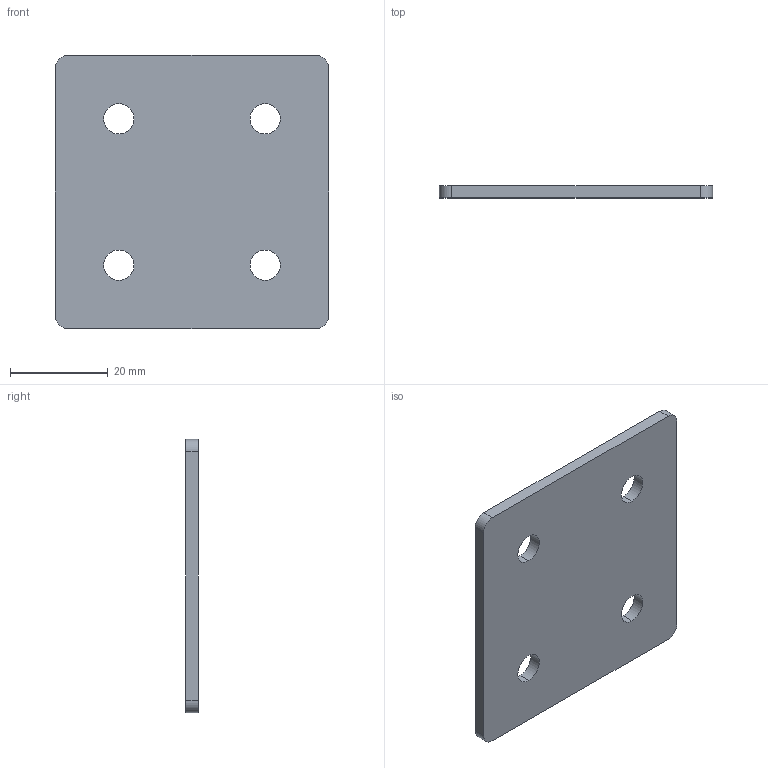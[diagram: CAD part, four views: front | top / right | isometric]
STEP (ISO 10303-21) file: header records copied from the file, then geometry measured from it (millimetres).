
FILE_DESCRIPTION (( 'STEP AP203' ), '1' );
FILE_NAME ('ﾏ-4ﾊ-30.STEP', '2016-07-23T14:58:27', ( '' ), ( '' ), 'SwSTEP 2.0', 'SolidWorks 2014', '' );
FILE_SCHEMA (( 'CONFIG_CONTROL_DESIGN' ));
Length unit declared in the file: millimetre
Products named in the file (1): ﾏ-4ﾊ-30
Bounding box: 56 x 2.5 x 56 mm (x, y, z)
Surface area: 6763.8 mm2 (no closed solid volume)
Topology: 0 solids, 1 shells, 18 faces, 48 edges, 32 vertices
Faces by surface type: cylinder 12, plane 6
Entity records: 669 total; most frequent: DIRECTION 110, CARTESIAN_POINT 99, ORIENTED_EDGE 96, EDGE_CURVE 48, AXIS2_PLACEMENT_3D 43, VERTEX_POINT 32, EDGE_LOOP 26, LINE 24
